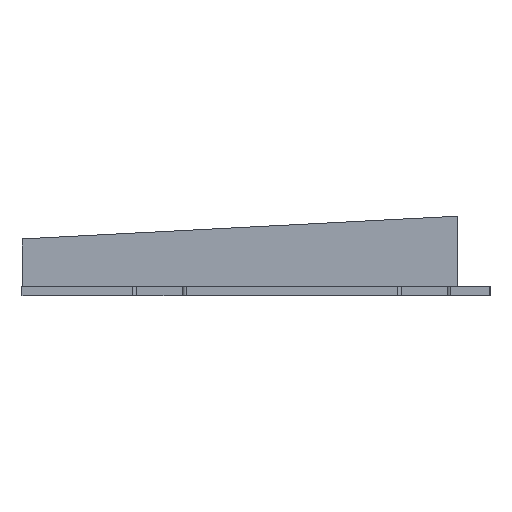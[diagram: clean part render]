
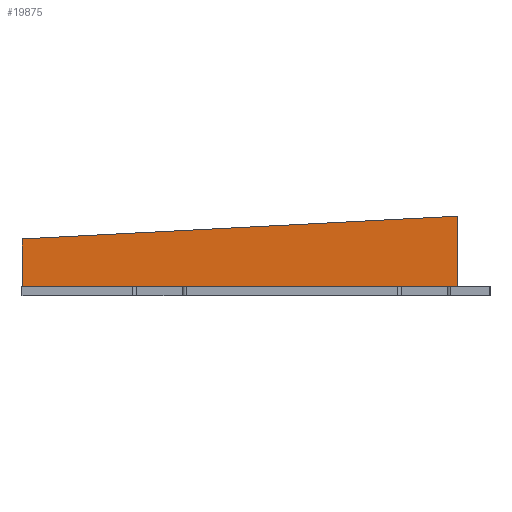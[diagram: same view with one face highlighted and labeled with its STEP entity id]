
A CAD part, left-side view. The second image highlights one B-rep face of the part: STEP entity #19875.
In plain terms, the highlighted planar face has unit normal (-1, 0, 0).
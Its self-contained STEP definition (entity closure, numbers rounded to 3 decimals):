
#97 = PLANE('',#98);
#98 = AXIS2_PLACEMENT_3D('',#99,#100,#101);
#99 = CARTESIAN_POINT('',(151.8,136.61,1.6));
#100 = DIRECTION('',(0.,0.,1.));
#101 = DIRECTION('',(1.,0.,-0.));
#434 = PLANE('',#435);
#435 = AXIS2_PLACEMENT_3D('',#436,#437,#438);
#436 = CARTESIAN_POINT('',(196.925,83.875,-5.));
#437 = DIRECTION('',(0.,1.,0.));
#438 = DIRECTION('',(1.,0.,0.));
#7555 = VERTEX_POINT('',#7556);
#7556 = CARTESIAN_POINT('',(216.8,8.3,1.6));
#7569 = PLANE('',#7570);
#7570 = AXIS2_PLACEMENT_3D('',#7571,#7572,#7573);
#7571 = CARTESIAN_POINT('',(216.8,8.3,13.831));
#7572 = DIRECTION('',(-0.,1.,0.));
#7573 = DIRECTION('',(0.,0.,-1.));
#7580 = EDGE_CURVE('',#7555,#7581,#7583,.T.);
#7581 = VERTEX_POINT('',#7582);
#7582 = CARTESIAN_POINT('',(216.8,83.875,1.6));
#7583 = SURFACE_CURVE('',#7584,(#7588,#7594),.PCURVE_S1.);
#7584 = LINE('',#7585,#7586);
#7585 = CARTESIAN_POINT('',(216.8,98.579,1.6));
#7586 = VECTOR('',#7587,1.);
#7587 = DIRECTION('',(0.,1.,0.));
#7588 = PCURVE('',#97,#7589);
#7589 = DEFINITIONAL_REPRESENTATION('',(#7590),#7593);
#7590 = B_SPLINE_CURVE_WITH_KNOTS('',1,(#7591,#7592),.UNSPECIFIED.,.F.,
  .F.,(2,2),(-90.279,16.777),.PIECEWISE_BEZIER_KNOTS.);
#7591 = CARTESIAN_POINT('',(65.,-128.31));
#7592 = CARTESIAN_POINT('',(65.,-21.253));
#7593 = ( GEOMETRIC_REPRESENTATION_CONTEXT(2) 
PARAMETRIC_REPRESENTATION_CONTEXT() REPRESENTATION_CONTEXT('2D SPACE',''
  ) );
#7594 = PCURVE('',#7595,#7600);
#7595 = PLANE('',#7596);
#7596 = AXIS2_PLACEMENT_3D('',#7597,#7598,#7599);
#7597 = CARTESIAN_POINT('',(216.8,60.549,6.155));
#7598 = DIRECTION('',(1.,0.,0.));
#7599 = DIRECTION('',(0.,1.,0.));
#7600 = DEFINITIONAL_REPRESENTATION('',(#7601),#7604);
#7601 = B_SPLINE_CURVE_WITH_KNOTS('',1,(#7602,#7603),.UNSPECIFIED.,.F.,
  .F.,(2,2),(-90.279,16.777),.PIECEWISE_BEZIER_KNOTS.);
#7602 = CARTESIAN_POINT('',(-52.249,-4.555));
#7603 = CARTESIAN_POINT('',(54.807,-4.555));
#7604 = ( GEOMETRIC_REPRESENTATION_CONTEXT(2) 
PARAMETRIC_REPRESENTATION_CONTEXT() REPRESENTATION_CONTEXT('2D SPACE',''
  ) );
#13691 = EDGE_CURVE('',#13692,#7581,#13694,.T.);
#13692 = VERTEX_POINT('',#13693);
#13693 = CARTESIAN_POINT('',(216.8,83.875,9.885));
#13694 = SURFACE_CURVE('',#13695,(#13699,#13705),.PCURVE_S1.);
#13695 = LINE('',#13696,#13697);
#13696 = CARTESIAN_POINT('',(216.8,83.875,0.577));
#13697 = VECTOR('',#13698,1.);
#13698 = DIRECTION('',(0.,0.,-1.));
#13699 = PCURVE('',#434,#13700);
#13700 = DEFINITIONAL_REPRESENTATION('',(#13701),#13704);
#13701 = B_SPLINE_CURVE_WITH_KNOTS('',1,(#13702,#13703),.UNSPECIFIED.,
  .F.,.F.,(2,2),(-13.254,-1.023),
  .PIECEWISE_BEZIER_KNOTS.);
#13702 = CARTESIAN_POINT('',(19.875,-18.831));
#13703 = CARTESIAN_POINT('',(19.875,-6.6));
#13704 = ( GEOMETRIC_REPRESENTATION_CONTEXT(2) 
PARAMETRIC_REPRESENTATION_CONTEXT() REPRESENTATION_CONTEXT('2D SPACE',''
  ) );
#13705 = PCURVE('',#7595,#13706);
#13706 = DEFINITIONAL_REPRESENTATION('',(#13707),#13710);
#13707 = B_SPLINE_CURVE_WITH_KNOTS('',1,(#13708,#13709),.UNSPECIFIED.,
  .F.,.F.,(2,2),(-13.254,-1.023),
  .PIECEWISE_BEZIER_KNOTS.);
#13708 = CARTESIAN_POINT('',(23.326,7.677));
#13709 = CARTESIAN_POINT('',(23.326,-4.555));
#13710 = ( GEOMETRIC_REPRESENTATION_CONTEXT(2) 
PARAMETRIC_REPRESENTATION_CONTEXT() REPRESENTATION_CONTEXT('2D SPACE',''
  ) );
#13727 = PLANE('',#13728);
#13728 = AXIS2_PLACEMENT_3D('',#13729,#13730,#13731);
#13729 = CARTESIAN_POINT('',(216.8,115.357,8.241));
#13730 = DIRECTION('',(0.,-0.052,-0.999));
#13731 = DIRECTION('',(0.,-0.999,0.052));
#19875 = ADVANCED_FACE('',(#19876),#7595,.F.);
#19876 = FACE_BOUND('',#19877,.F.);
#19877 = EDGE_LOOP('',(#19878,#19901,#19922,#19923));
#19878 = ORIENTED_EDGE('',*,*,#19879,.T.);
#19879 = EDGE_CURVE('',#13692,#19880,#19882,.T.);
#19880 = VERTEX_POINT('',#19881);
#19881 = CARTESIAN_POINT('',(216.8,8.3,13.831));
#19882 = SURFACE_CURVE('',#19883,(#19887,#19894),.PCURVE_S1.);
#19883 = LINE('',#19884,#19885);
#19884 = CARTESIAN_POINT('',(216.8,115.357,8.241));
#19885 = VECTOR('',#19886,1.);
#19886 = DIRECTION('',(0.,-0.999,0.052));
#19887 = PCURVE('',#7595,#19888);
#19888 = DEFINITIONAL_REPRESENTATION('',(#19889),#19893);
#19889 = LINE('',#19890,#19891);
#19890 = CARTESIAN_POINT('',(54.807,2.086));
#19891 = VECTOR('',#19892,1.);
#19892 = DIRECTION('',(-0.999,0.052));
#19893 = ( GEOMETRIC_REPRESENTATION_CONTEXT(2) 
PARAMETRIC_REPRESENTATION_CONTEXT() REPRESENTATION_CONTEXT('2D SPACE',''
  ) );
#19894 = PCURVE('',#13727,#19895);
#19895 = DEFINITIONAL_REPRESENTATION('',(#19896),#19900);
#19896 = LINE('',#19897,#19898);
#19897 = CARTESIAN_POINT('',(0.,0.));
#19898 = VECTOR('',#19899,1.);
#19899 = DIRECTION('',(1.,0.));
#19900 = ( GEOMETRIC_REPRESENTATION_CONTEXT(2) 
PARAMETRIC_REPRESENTATION_CONTEXT() REPRESENTATION_CONTEXT('2D SPACE',''
  ) );
#19901 = ORIENTED_EDGE('',*,*,#19902,.T.);
#19902 = EDGE_CURVE('',#19880,#7555,#19903,.T.);
#19903 = SURFACE_CURVE('',#19904,(#19908,#19915),.PCURVE_S1.);
#19904 = LINE('',#19905,#19906);
#19905 = CARTESIAN_POINT('',(216.8,8.3,13.831));
#19906 = VECTOR('',#19907,1.);
#19907 = DIRECTION('',(0.,0.,-1.));
#19908 = PCURVE('',#7595,#19909);
#19909 = DEFINITIONAL_REPRESENTATION('',(#19910),#19914);
#19910 = LINE('',#19911,#19912);
#19911 = CARTESIAN_POINT('',(-52.249,7.677));
#19912 = VECTOR('',#19913,1.);
#19913 = DIRECTION('',(0.,-1.));
#19914 = ( GEOMETRIC_REPRESENTATION_CONTEXT(2) 
PARAMETRIC_REPRESENTATION_CONTEXT() REPRESENTATION_CONTEXT('2D SPACE',''
  ) );
#19915 = PCURVE('',#7569,#19916);
#19916 = DEFINITIONAL_REPRESENTATION('',(#19917),#19921);
#19917 = LINE('',#19918,#19919);
#19918 = CARTESIAN_POINT('',(0.,0.));
#19919 = VECTOR('',#19920,1.);
#19920 = DIRECTION('',(1.,0.));
#19921 = ( GEOMETRIC_REPRESENTATION_CONTEXT(2) 
PARAMETRIC_REPRESENTATION_CONTEXT() REPRESENTATION_CONTEXT('2D SPACE',''
  ) );
#19922 = ORIENTED_EDGE('',*,*,#7580,.T.);
#19923 = ORIENTED_EDGE('',*,*,#13691,.F.);
